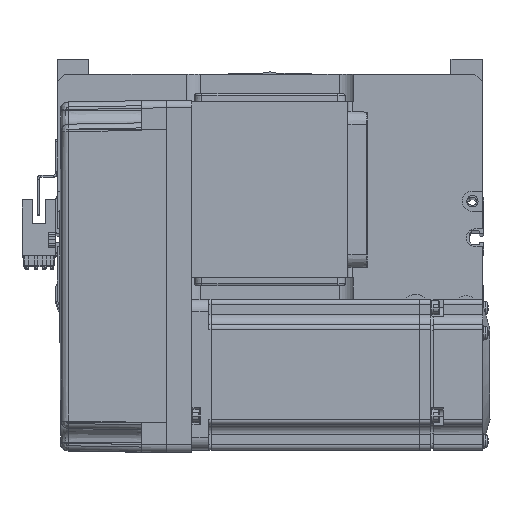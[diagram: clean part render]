
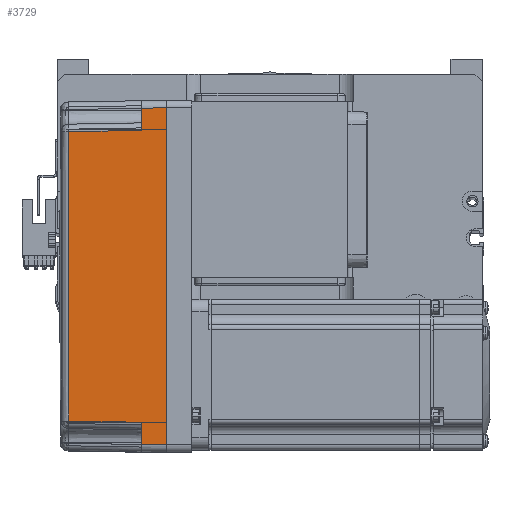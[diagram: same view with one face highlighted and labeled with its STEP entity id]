
A CAD part, top view. The second image highlights one B-rep face of the part: STEP entity #3729.
In plain terms, the highlighted planar face has unit normal (-0.018, 0, 1) as drawn and (0, -1, 0.017) by its records, which use the part's own axes.
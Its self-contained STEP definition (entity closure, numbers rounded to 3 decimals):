
#197 = VECTOR ( 'NONE', #32637, 1000. ) ;
#781 = VECTOR ( 'NONE', #42626, 1000. ) ;
#1719 = PLANE ( 'NONE',  #21601 ) ;
#2418 = LINE ( 'NONE', #50987, #58142 ) ;
#2752 = CARTESIAN_POINT ( 'NONE',  ( 19.165, -35.316, 39.181 ) ) ;
#3109 = VECTOR ( 'NONE', #16191, 1000. ) ;
#3729 = ADVANCED_FACE ( 'NONE', ( #20025 ), #1719, .T. ) ;
#3920 = DIRECTION ( 'NONE',  ( -1., 0., 0. ) ) ;
#5592 = ORIENTED_EDGE ( 'NONE', *, *, #44063, .F. ) ;
#5785 = CARTESIAN_POINT ( 'NONE',  ( 57.495, -35.32, 38.985 ) ) ;
#7942 = CARTESIAN_POINT ( 'NONE',  ( -57.495, -35.32, 38.985 ) ) ;
#7963 = CARTESIAN_POINT ( 'NONE',  ( 66.826, -35.825, 10. ) ) ;
#10815 = VERTEX_POINT ( 'NONE', #5785 ) ;
#10939 = ORIENTED_EDGE ( 'NONE', *, *, #42246, .T. ) ;
#12180 = ORIENTED_EDGE ( 'NONE', *, *, #57827, .F. ) ;
#12213 = ORIENTED_EDGE ( 'NONE', *, *, #26746, .T. ) ;
#12567 = CARTESIAN_POINT ( 'NONE',  ( 58., -35.825, 10. ) ) ;
#12732 = LINE ( 'NONE', #26793, #15695 ) ;
#14891 = VECTOR ( 'NONE', #36769, 1000. ) ;
#15695 = VECTOR ( 'NONE', #41141, 1000. ) ;
#16191 = DIRECTION ( 'NONE',  ( 0.017, 0.017, 1. ) ) ;
#17558 = CARTESIAN_POINT ( 'NONE',  ( 58., -35.825, 10. ) ) ;
#18971 = VERTEX_POINT ( 'NONE', #53816 ) ;
#19041 = ORIENTED_EDGE ( 'NONE', *, *, #20367, .T. ) ;
#20025 = FACE_OUTER_BOUND ( 'NONE', #31516, .T. ) ;
#20100 = VERTEX_POINT ( 'NONE', #7942 ) ;
#20367 = EDGE_CURVE ( 'NONE', #40364, #49170, #37181, .T. ) ;
#21325 = CARTESIAN_POINT ( 'NONE',  ( -67., -36., 0. ) ) ;
#21601 = AXIS2_PLACEMENT_3D ( 'NONE', #29697, #57786, #58411 ) ;
#22323 = CARTESIAN_POINT ( 'NONE',  ( 70., -35.825, 10. ) ) ;
#23652 = CARTESIAN_POINT ( 'NONE',  ( 0., -36., 0. ) ) ;
#23677 = CARTESIAN_POINT ( 'NONE',  ( 67., -36., 0. ) ) ;
#24537 = VECTOR ( 'NONE', #3920, 1000. ) ;
#25590 = CARTESIAN_POINT ( 'NONE',  ( -66.959, -35.958, 2.39 ) ) ;
#25959 = CARTESIAN_POINT ( 'NONE',  ( 57.495, -35.32, 38.985 ) ) ;
#26005 = VERTEX_POINT ( 'NONE', #33786 ) ;
#26168 = CARTESIAN_POINT ( 'NONE',  ( -57.495, -35.32, 38.985 ) ) ;
#26746 = EDGE_CURVE ( 'NONE', #55136, #10815, #36629, .T. ) ;
#26793 = CARTESIAN_POINT ( 'NONE',  ( 70., -35.825, 10. ) ) ;
#28305 = VERTEX_POINT ( 'NONE', #21325 ) ;
#29697 = CARTESIAN_POINT ( 'NONE',  ( 70., -36., 0. ) ) ;
#31516 = EDGE_LOOP ( 'NONE', ( #19041, #53872, #12213, #48903, #10939, #48649, #12180, #5592 ) ) ;
#32080 = DIRECTION ( 'NONE',  ( -0.017, -0.017, -1. ) ) ;
#32637 = DIRECTION ( 'NONE',  ( -1., 0., 0. ) ) ;
#33786 = CARTESIAN_POINT ( 'NONE',  ( -66.826, -35.825, 10. ) ) ;
#34351 = LINE ( 'NONE', #25590, #3109 ) ;
#36007 = CARTESIAN_POINT ( 'NONE',  ( -19.165, -35.316, 39.181 ) ) ;
#36629 = LINE ( 'NONE', #17558, #14891 ) ;
#36769 = DIRECTION ( 'NONE',  ( -0.017, 0.017, 1. ) ) ;
#37181 = LINE ( 'NONE', #23677, #781 ) ;
#40364 = VERTEX_POINT ( 'NONE', #42218 ) ;
#41141 = DIRECTION ( 'NONE',  ( -1., 0., 0. ) ) ;
#42218 = CARTESIAN_POINT ( 'NONE',  ( 67., -36., 0. ) ) ;
#42246 = EDGE_CURVE ( 'NONE', #20100, #18971, #2418, .T. ) ;
#42507 = EDGE_CURVE ( 'NONE', #10815, #20100, #51077, .T. ) ;
#42626 = DIRECTION ( 'NONE',  ( -0.017, 0.017, 1. ) ) ;
#42698 = EDGE_CURVE ( 'NONE', #49170, #55136, #12732, .T. ) ;
#43183 = EDGE_CURVE ( 'NONE', #18971, #26005, #54334, .T. ) ;
#44063 = EDGE_CURVE ( 'NONE', #40364, #28305, #50704, .T. ) ;
#48649 = ORIENTED_EDGE ( 'NONE', *, *, #43183, .T. ) ;
#48903 = ORIENTED_EDGE ( 'NONE', *, *, #42507, .T. ) ;
#49170 = VERTEX_POINT ( 'NONE', #7963 ) ;
#50704 = LINE ( 'NONE', #23652, #197 ) ;
#50987 = CARTESIAN_POINT ( 'NONE',  ( -57.495, -35.32, 38.985 ) ) ;
#51077 = B_SPLINE_CURVE_WITH_KNOTS ( 'NONE', 3,
 ( #25959, #2752, #36007, #26168 ),
 .UNSPECIFIED., .F., .F.,
 ( 4, 4 ),
 ( 0., 1. ),
 .UNSPECIFIED. ) ;
#53816 = CARTESIAN_POINT ( 'NONE',  ( -58., -35.825, 10. ) ) ;
#53872 = ORIENTED_EDGE ( 'NONE', *, *, #42698, .T. ) ;
#54334 = LINE ( 'NONE', #22323, #24537 ) ;
#55136 = VERTEX_POINT ( 'NONE', #12567 ) ;
#57786 = DIRECTION ( 'NONE',  ( 0., -1., 0.017 ) ) ;
#57827 = EDGE_CURVE ( 'NONE', #28305, #26005, #34351, .T. ) ;
#58142 = VECTOR ( 'NONE', #32080, 1000. ) ;
#58411 = DIRECTION ( 'NONE',  ( 0., -0.017, -1. ) ) ;
